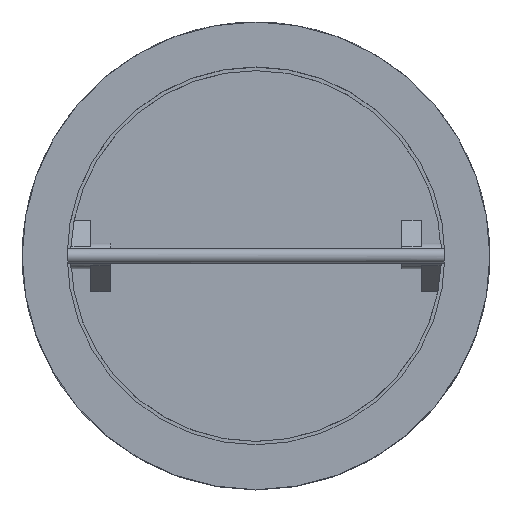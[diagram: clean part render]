
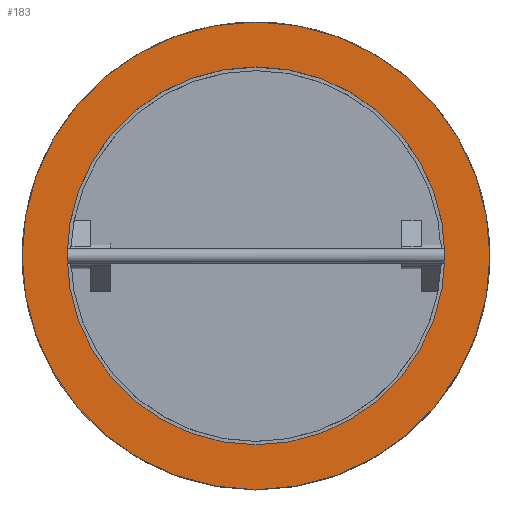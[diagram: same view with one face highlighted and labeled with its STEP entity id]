
A CAD part, top view. The second image highlights one B-rep face of the part: STEP entity #183.
In plain terms, the highlighted planar face has unit normal (0, 0, 1).
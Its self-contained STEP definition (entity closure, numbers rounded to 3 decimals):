
#183=ADVANCED_FACE('',(#838,#840),#842,.T.);
#838=FACE_BOUND('',#839,.T.);
#839=EDGE_LOOP('',(#1368));
#840=FACE_BOUND('',#841,.T.);
#841=EDGE_LOOP('',(#1369));
#842=PLANE('',#843);
#843=AXIS2_PLACEMENT_3D('',#844,#845,#846);
#844=CARTESIAN_POINT('',(0.,0.,114.));
#845=DIRECTION('',(0.,0.,1.));
#846=DIRECTION('',(0.,-1.,0.));
#1368=ORIENTED_EDGE('',*,*,#1729,.T.);
#1369=ORIENTED_EDGE('',*,*,#1736,.F.);
#1729=EDGE_CURVE('',#1955,#1955,#1956,.T.);
#1736=EDGE_CURVE('',#1969,#1969,#1970,.T.);
#1955=VERTEX_POINT('',#2376);
#1956=CIRCLE('',#2377,164.);
#1969=VERTEX_POINT('',#2409);
#1970=CIRCLE('',#2410,132.5);
#2376=CARTESIAN_POINT('',(0.,-164.,114.));
#2377=AXIS2_PLACEMENT_3D('',#2378,#2379,#2380);
#2378=CARTESIAN_POINT('',(0.,0.,114.));
#2379=DIRECTION('',(0.,0.,1.));
#2380=DIRECTION('',(0.,-1.,0.));
#2409=CARTESIAN_POINT('',(0.,-132.5,114.));
#2410=AXIS2_PLACEMENT_3D('',#2411,#2412,#2413);
#2411=CARTESIAN_POINT('',(0.,0.,114.));
#2412=DIRECTION('',(0.,0.,1.));
#2413=DIRECTION('',(0.,-1.,0.));
